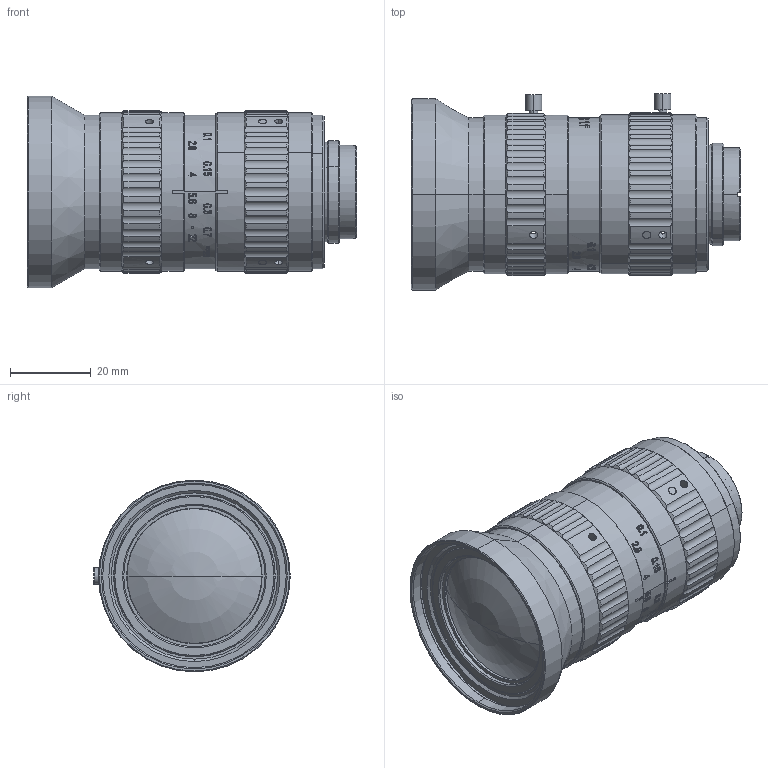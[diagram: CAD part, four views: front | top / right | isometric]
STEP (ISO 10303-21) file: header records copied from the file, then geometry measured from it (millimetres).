
FILE_DESCRIPTION((''),'2;1');
FILE_NAME('200_ASM','2025-05-07T11:39:32',('user'),(''),'CREO PARAMETRIC BY PTC INC, 2022073','CREO PARAMETRIC BY PTC INC, 2022073','');
FILE_SCHEMA(('CONFIG_CONTROL_DESIGN'));
Length unit declared in the file: millimetre
Products named in the file (67): 505_AF0; 501_AF0; 301_AF0; 511_AF0; 201_AF0_ASM; 504_AF0; 506_AF0; 507_AF0; 508_AF0; 503_AF0; 303_AF0; 513_AF0; 203_AF0_ASM; 502_AF0; 302_AF0; 512_AF0; MA106-02-07_AF0; MA115-02-03_AF0; MA117-02-19________AF0; MA117-02-19________AF1; MA115-01-02_AF0_ASM; MA115-02-03_AF1; MA117-02-19________AF2; MA117-02-19________AF3; MA115-01-02_AF1_ASM; MA115-02-04_AF0; MA115-02-03_AF2; MA117-02-19________AF4; MA117-02-19________AF5; MA115-01-02_AF2_ASM; MA106-02-08_AF0; MA115-02-03_AF3; MA117-02-19________AF6; MA117-02-19________AF7; MA115-01-02_AF3_ASM; MA115-02-03_AF4; MA117-02-19________AF8; MA117-02-19________AF9; MA115-01-02_AF4_ASM; MA115-02-03_AF5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
Assembly tree (66 placements, depth 6):
  200_ASM
    505_AF0
    201_AF0_ASM
      501_AF0
      301_AF0
      511_AF0
    504_AF0
    506_AF0
    507_AF0
    508_AF0
    203_AF0_ASM
      503_AF0
      303_AF0
      513_AF0
    202_AF0_ASM
      502_AF0
      302_AF0
      512_AF0
      MA106-00-02_AF0_ASM
        ASM0001_AF0_ASM
          MA106-02-07_AF0
          MA115-01-02_AF0_ASM
            MA115-02-03_AF0
            MA117-02-19________AF0
            MA117-02-19________AF1
          MA115-01-02_AF1_ASM
            MA115-02-03_AF1
            MA117-02-19________AF2
            MA117-02-19________AF3
          MA115-02-04_AF0
          MA115-01-02_AF2_ASM
            MA115-02-03_AF2
            MA117-02-19________AF4
            MA117-02-19________AF5
          MA106-02-08_AF0
          MA115-01-02_AF3_ASM
            MA115-02-03_AF3
            MA117-02-19________AF6
            MA117-02-19________AF7
          MA115-01-02_AF4_ASM
            MA115-02-03_AF4
            MA117-02-19________AF8
            MA117-02-19________AF9
          MA115-01-02_AF5_ASM
            MA115-02-03_AF5
            MA117-02-19________AF10
            MA117-02-19________AF11
          MA115-01-02_AF6_ASM
            MA115-02-03_AF6
            MA117-02-19________AF12
            MA117-02-19________AF13
        _MA106-00-02
    M1440_AF0
    M1440_AF1
    M1440_AF2
    MV3503A-513_AF0
    FA2515A-531_AF0
    M1440_AF3
    M1440_AF4
    M1440_AF5
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Bounding box: 81.56 x 48.68 x 47.5 mm (x, y, z)
Volume: 21064.4 mm3; surface area: 28685.6 mm2
Topology: 18 solids, 18 shells, 1149 faces, 3003 edges, 1972 vertices
Faces by surface type: cylinder 347, extrusion 317, plane 232, bspline 169, cone 80, sphere 2, torus 2
Entity records: 48849 total; most frequent: CARTESIAN_POINT 21407, ORIENTED_EDGE 5998, DIRECTION 4361, EDGE_CURVE 2999, VERTEX_POINT 1972, B_SPLINE_CURVE_WITH_KNOTS 1564, VECTOR 1455, AXIS2_PLACEMENT_3D 1453
